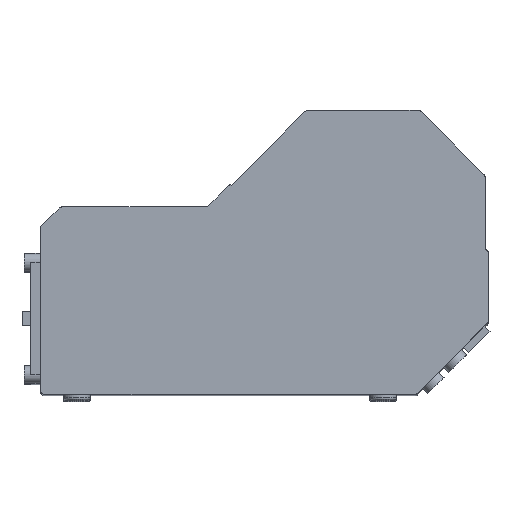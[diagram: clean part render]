
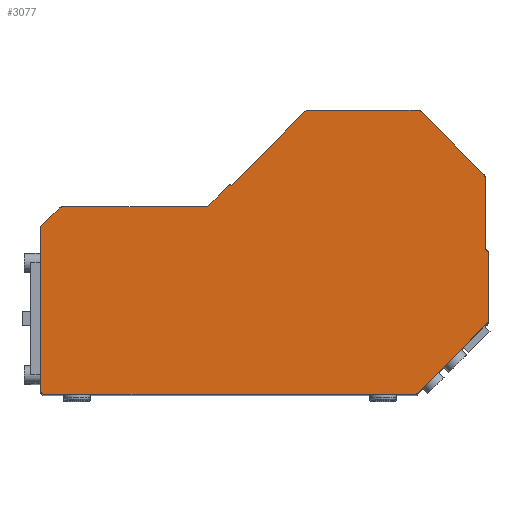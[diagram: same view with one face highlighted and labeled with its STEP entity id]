
A CAD part, top view. The second image highlights one B-rep face of the part: STEP entity #3077.
In plain terms, the highlighted planar face has unit normal (0, 0, 1).
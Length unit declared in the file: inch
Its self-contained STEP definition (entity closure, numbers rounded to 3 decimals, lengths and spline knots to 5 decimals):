
#960=CARTESIAN_POINT('',(12.2987,5.99322,26.));
#961=VERTEX_POINT('',#960);
#968=CARTESIAN_POINT('',(12.2987,4.00028,26.));
#969=VERTEX_POINT('',#968);
#970=CARTESIAN_POINT('',(12.2987,4.00028,26.));
#971=DIRECTION('',(0.0,1.0,0.0));
#972=VECTOR('',#971,1.99294);
#973=LINE('',#970,#972);
#974=EDGE_CURVE('',#969,#961,#973,.T.);
#991=CARTESIAN_POINT('',(12.25816,6.09108,26.));
#992=VERTEX_POINT('',#991);
#999=CARTESIAN_POINT('',(12.1603,5.99322,26.));
#1000=DIRECTION('',(0.0,0.0,1.0));
#1001=DIRECTION('',(1.0,0.0,0.0));
#1002=AXIS2_PLACEMENT_3D('',#999,#1000,#1001);
#1003=CIRCLE('',#1002,0.13839);
#1004=EDGE_CURVE('',#961,#992,#1003,.T.);
#1016=CARTESIAN_POINT('',(10.53923,7.81001,26.));
#1017=VERTEX_POINT('',#1016);
#1024=CARTESIAN_POINT('',(12.25816,6.09108,26.));
#1025=DIRECTION('',(-0.707,0.707,0.0));
#1026=VECTOR('',#1025,2.43094);
#1027=LINE('',#1024,#1026);
#1028=EDGE_CURVE('',#992,#1017,#1027,.T.);
#1040=CARTESIAN_POINT('',(10.44137,7.85054,26.));
#1041=VERTEX_POINT('',#1040);
#1048=CARTESIAN_POINT('',(10.44137,7.71215,26.));
#1049=DIRECTION('',(0.0,0.0,1.0));
#1050=DIRECTION('',(0.707,0.707,0.0));
#1051=AXIS2_PLACEMENT_3D('',#1048,#1049,#1050);
#1052=CIRCLE('',#1051,0.13839);
#1053=EDGE_CURVE('',#1017,#1041,#1052,.T.);
#1065=CARTESIAN_POINT('',(7.40602,7.85054,26.));
#1066=VERTEX_POINT('',#1065);
#1073=CARTESIAN_POINT('',(10.44137,7.85054,26.));
#1074=DIRECTION('',(-1.0,0.0,0.0));
#1075=VECTOR('',#1074,3.03535);
#1076=LINE('',#1073,#1075);
#1077=EDGE_CURVE('',#1041,#1066,#1076,.T.);
#1089=CARTESIAN_POINT('',(7.30816,7.81001,26.));
#1090=VERTEX_POINT('',#1089);
#1097=CARTESIAN_POINT('',(7.40602,7.71215,26.));
#1098=DIRECTION('',(0.0,0.0,1.0));
#1099=DIRECTION('',(0.0,1.0,0.0));
#1100=AXIS2_PLACEMENT_3D('',#1097,#1098,#1099);
#1101=CIRCLE('',#1100,0.13839);
#1102=EDGE_CURVE('',#1066,#1090,#1101,.T.);
#1114=CARTESIAN_POINT('',(5.28066,5.78251,26.));
#1115=VERTEX_POINT('',#1114);
#1122=CARTESIAN_POINT('',(7.30816,7.81001,26.));
#1123=DIRECTION('',(-0.707,-0.707,0.0));
#1124=VECTOR('',#1123,2.86732);
#1125=LINE('',#1122,#1124);
#1126=EDGE_CURVE('',#1090,#1115,#1125,.T.);
#2253=CARTESIAN_POINT('',(0.51711,5.15381,26.));
#2254=VERTEX_POINT('',#2253);
#2261=CARTESIAN_POINT('',(0.58358,5.18134,26.));
#2262=VERTEX_POINT('',#2261);
#2263=CARTESIAN_POINT('',(0.58358,5.08734,26.));
#2264=DIRECTION('',(0.0,0.0,1.0));
#2265=DIRECTION('',(0.0,1.0,0.0));
#2266=AXIS2_PLACEMENT_3D('',#2263,#2264,#2265);
#2267=CIRCLE('',#2266,0.094);
#2268=EDGE_CURVE('',#2262,#2254,#2267,.T.);
#2293=CARTESIAN_POINT('',(4.58981,5.18134,26.));
#2294=VERTEX_POINT('',#2293);
#2295=CARTESIAN_POINT('',(4.58981,5.18134,26.));
#2296=DIRECTION('',(-1.0,0.0,0.0));
#2297=VECTOR('',#2296,4.00624);
#2298=LINE('',#2295,#2297);
#2299=EDGE_CURVE('',#2294,#2262,#2298,.T.);
#2340=CARTESIAN_POINT('',(4.62305,5.19511,26.));
#2341=VERTEX_POINT('',#2340);
#2342=CARTESIAN_POINT('',(4.58981,5.22834,26.));
#2343=DIRECTION('',(0.0,0.0,-1.0));
#2344=DIRECTION('',(0.0,1.0,0.0));
#2345=AXIS2_PLACEMENT_3D('',#2342,#2343,#2344);
#2346=CIRCLE('',#2345,0.047);
#2347=EDGE_CURVE('',#2341,#2294,#2346,.T.);
#2372=CARTESIAN_POINT('',(5.08695,5.65902,26.));
#2373=VERTEX_POINT('',#2372);
#2374=CARTESIAN_POINT('',(5.08695,5.65902,26.));
#2375=DIRECTION('',(-0.707,-0.707,0.0));
#2376=VECTOR('',#2375,0.65606);
#2377=LINE('',#2374,#2376);
#2378=EDGE_CURVE('',#2373,#2341,#2377,.T.);
#2403=CARTESIAN_POINT('',(5.17534,5.7474,26.));
#2404=VERTEX_POINT('',#2403);
#2405=CARTESIAN_POINT('',(5.17534,5.7474,26.));
#2406=DIRECTION('',(-0.707,-0.707,0.0));
#2407=VECTOR('',#2406,0.125);
#2408=LINE('',#2405,#2407);
#2409=EDGE_CURVE('',#2404,#2373,#2408,.T.);
#2434=CARTESIAN_POINT('',(5.20451,5.77657,26.));
#2435=VERTEX_POINT('',#2434);
#2436=CARTESIAN_POINT('',(5.20451,5.77657,26.));
#2437=DIRECTION('',(-0.707,-0.707,0.0));
#2438=VECTOR('',#2437,0.04125);
#2439=LINE('',#2436,#2438);
#2440=EDGE_CURVE('',#2435,#2404,#2439,.T.);
#2466=CARTESIAN_POINT('',(5.24605,5.73503,26.));
#2467=DIRECTION('',(0.0,0.0,1.0));
#2468=DIRECTION('',(0.589,0.808,0.0));
#2469=AXIS2_PLACEMENT_3D('',#2466,#2467,#2468);
#2470=CIRCLE('',#2469,0.05875);
#2471=EDGE_CURVE('',#1115,#2435,#2470,.T.);
#2672=CARTESIAN_POINT('',(12.37859,3.92544,26.));
#2673=VERTEX_POINT('',#2672);
#2674=CARTESIAN_POINT('',(12.30359,3.92544,26.));
#2675=DIRECTION('',(0.0,0.0,1.0));
#2676=DIRECTION('',(1.0,0.0,0.0));
#2677=AXIS2_PLACEMENT_3D('',#2674,#2675,#2676);
#2678=CIRCLE('',#2677,0.075);
#2679=EDGE_CURVE('',#2673,#969,#2678,.T.);
#2704=CARTESIAN_POINT('',(12.37859,2.03015,26.));
#2705=VERTEX_POINT('',#2704);
#2706=CARTESIAN_POINT('',(12.37859,2.03015,26.));
#2707=DIRECTION('',(0.,1.0,0.0));
#2708=VECTOR('',#2707,1.89529);
#2709=LINE('',#2706,#2708);
#2710=EDGE_CURVE('',#2705,#2673,#2709,.T.);
#2736=CARTESIAN_POINT('',(12.34345,1.9453,26.));
#2737=VERTEX_POINT('',#2736);
#2738=CARTESIAN_POINT('',(12.25859,2.03015,26.));
#2739=DIRECTION('',(0.0,0.0,1.0));
#2740=DIRECTION('',(0.707,-0.707,0.0));
#2741=AXIS2_PLACEMENT_3D('',#2738,#2739,#2740);
#2742=CIRCLE('',#2741,0.12);
#2743=EDGE_CURVE('',#2737,#2705,#2742,.T.);
#2768=CARTESIAN_POINT('',(10.43384,0.03569,26.));
#2769=VERTEX_POINT('',#2768);
#2770=CARTESIAN_POINT('',(10.43384,0.03569,26.));
#2771=DIRECTION('',(0.707,0.707,0.0));
#2772=VECTOR('',#2771,2.70059);
#2773=LINE('',#2770,#2772);
#2774=EDGE_CURVE('',#2769,#2737,#2773,.T.);
#2812=CARTESIAN_POINT('',(10.34899,0.00054,26.));
#2813=VERTEX_POINT('',#2812);
#2814=CARTESIAN_POINT('',(10.34899,0.12054,26.));
#2815=DIRECTION('',(0.0,0.0,1.0));
#2816=DIRECTION('',(0.0,-1.0,0.0));
#2817=AXIS2_PLACEMENT_3D('',#2814,#2815,#2816);
#2818=CIRCLE('',#2817,0.12);
#2819=EDGE_CURVE('',#2813,#2769,#2818,.T.);
#2844=CARTESIAN_POINT('',(0.1187,0.00054,26.));
#2845=VERTEX_POINT('',#2844);
#2846=CARTESIAN_POINT('',(0.1187,0.00054,26.));
#2847=DIRECTION('',(1.0,0.,0.0));
#2848=VECTOR('',#2847,10.23029);
#2849=LINE('',#2846,#2848);
#2850=EDGE_CURVE('',#2845,#2813,#2849,.T.);
#2900=CARTESIAN_POINT('',(-0.0013,0.12054,26.));
#2901=VERTEX_POINT('',#2900);
#2902=CARTESIAN_POINT('',(0.1187,0.12054,26.));
#2903=DIRECTION('',(0.0,0.0,1.0));
#2904=DIRECTION('',(-1.0,0.0,0.0));
#2905=AXIS2_PLACEMENT_3D('',#2902,#2903,#2904);
#2906=CIRCLE('',#2905,0.12);
#2907=EDGE_CURVE('',#2901,#2845,#2906,.T.);
#2932=CARTESIAN_POINT('',(-0.0013,4.58569,26.));
#2933=VERTEX_POINT('',#2932);
#2934=CARTESIAN_POINT('',(-0.0013,4.58569,26.));
#2935=DIRECTION('',(0.0,-1.0,0.0));
#2936=VECTOR('',#2935,4.46515);
#2937=LINE('',#2934,#2936);
#2938=EDGE_CURVE('',#2933,#2901,#2937,.T.);
#2974=CARTESIAN_POINT('',(0.03384,4.67054,26.));
#2975=VERTEX_POINT('',#2974);
#2976=CARTESIAN_POINT('',(0.1187,4.58569,26.));
#2977=DIRECTION('',(0.0,0.0,1.0));
#2978=DIRECTION('',(-0.707,0.707,0.0));
#2979=AXIS2_PLACEMENT_3D('',#2976,#2977,#2978);
#2980=CIRCLE('',#2979,0.12);
#2981=EDGE_CURVE('',#2975,#2933,#2980,.T.);
#3006=CARTESIAN_POINT('',(0.45831,5.09502,26.));
#3007=VERTEX_POINT('',#3006);
#3008=CARTESIAN_POINT('',(0.45831,5.09502,26.));
#3009=DIRECTION('',(-0.707,-0.707,0.0));
#3010=VECTOR('',#3009,0.60029);
#3011=LINE('',#3008,#3010);
#3012=EDGE_CURVE('',#3007,#2975,#3011,.T.);
#3035=CARTESIAN_POINT('',(0.51711,5.15381,26.));
#3036=DIRECTION('',(-0.707,-0.707,0.0));
#3037=VECTOR('',#3036,0.08315);
#3038=LINE('',#3035,#3037);
#3039=EDGE_CURVE('',#2254,#3007,#3038,.T.);
#3045=CARTESIAN_POINT('',(6.26701,3.36519,26.));
#3046=DIRECTION('',(0.0,0.0,1.0));
#3047=DIRECTION('',(1.0,0.0,0.0));
#3048=AXIS2_PLACEMENT_3D('',#3045,#3046,#3047);
#3049=PLANE('',#3048);
#3050=ORIENTED_EDGE('',*,*,#3039,.T.);
#3051=ORIENTED_EDGE('',*,*,#3012,.T.);
#3052=ORIENTED_EDGE('',*,*,#2981,.T.);
#3053=ORIENTED_EDGE('',*,*,#2938,.T.);
#3054=ORIENTED_EDGE('',*,*,#2907,.T.);
#3055=ORIENTED_EDGE('',*,*,#2850,.T.);
#3056=ORIENTED_EDGE('',*,*,#2819,.T.);
#3057=ORIENTED_EDGE('',*,*,#2774,.T.);
#3058=ORIENTED_EDGE('',*,*,#2743,.T.);
#3059=ORIENTED_EDGE('',*,*,#2710,.T.);
#3060=ORIENTED_EDGE('',*,*,#2679,.T.);
#3061=ORIENTED_EDGE('',*,*,#974,.T.);
#3062=ORIENTED_EDGE('',*,*,#1004,.T.);
#3063=ORIENTED_EDGE('',*,*,#1028,.T.);
#3064=ORIENTED_EDGE('',*,*,#1053,.T.);
#3065=ORIENTED_EDGE('',*,*,#1077,.T.);
#3066=ORIENTED_EDGE('',*,*,#1102,.T.);
#3067=ORIENTED_EDGE('',*,*,#1126,.T.);
#3068=ORIENTED_EDGE('',*,*,#2471,.T.);
#3069=ORIENTED_EDGE('',*,*,#2440,.T.);
#3070=ORIENTED_EDGE('',*,*,#2409,.T.);
#3071=ORIENTED_EDGE('',*,*,#2378,.T.);
#3072=ORIENTED_EDGE('',*,*,#2347,.T.);
#3073=ORIENTED_EDGE('',*,*,#2299,.T.);
#3074=ORIENTED_EDGE('',*,*,#2268,.T.);
#3075=EDGE_LOOP('',(#3050,#3051,#3052,#3053,#3054,#3055,#3056,#3057,#3058,#3059,#3060,#3061,#3062,#3063,#3064,#3065,#3066,#3067,#3068,#3069,#3070,#3071,#3072,#3073,#3074));
#3076=FACE_OUTER_BOUND('',#3075,.T.);
#3077=ADVANCED_FACE('',(#3076),#3049,.T.);
